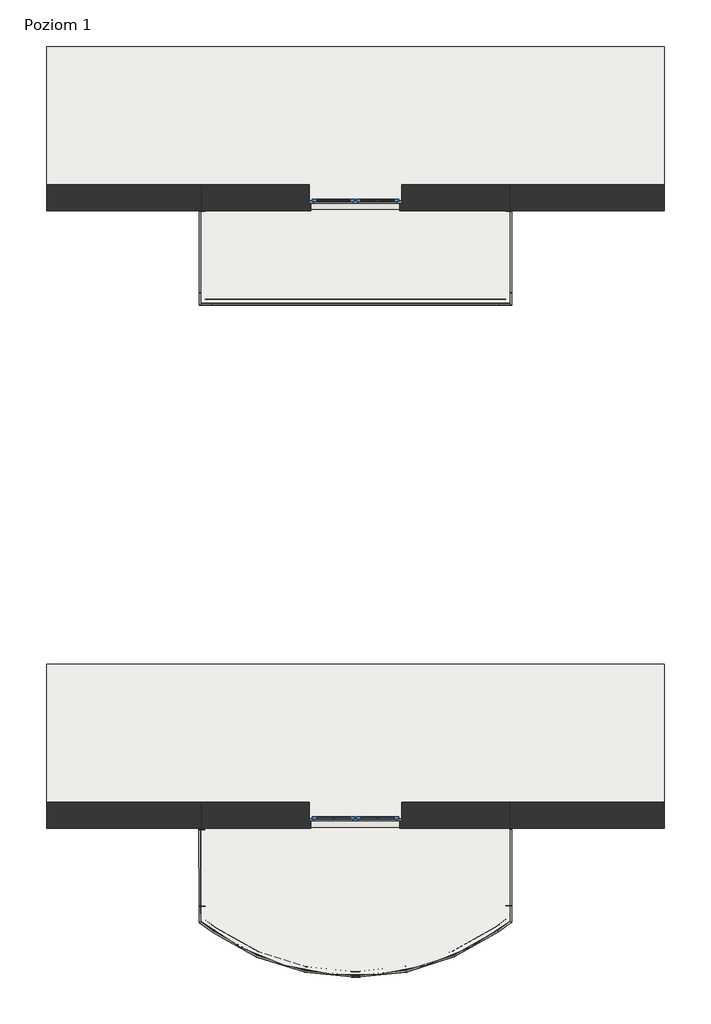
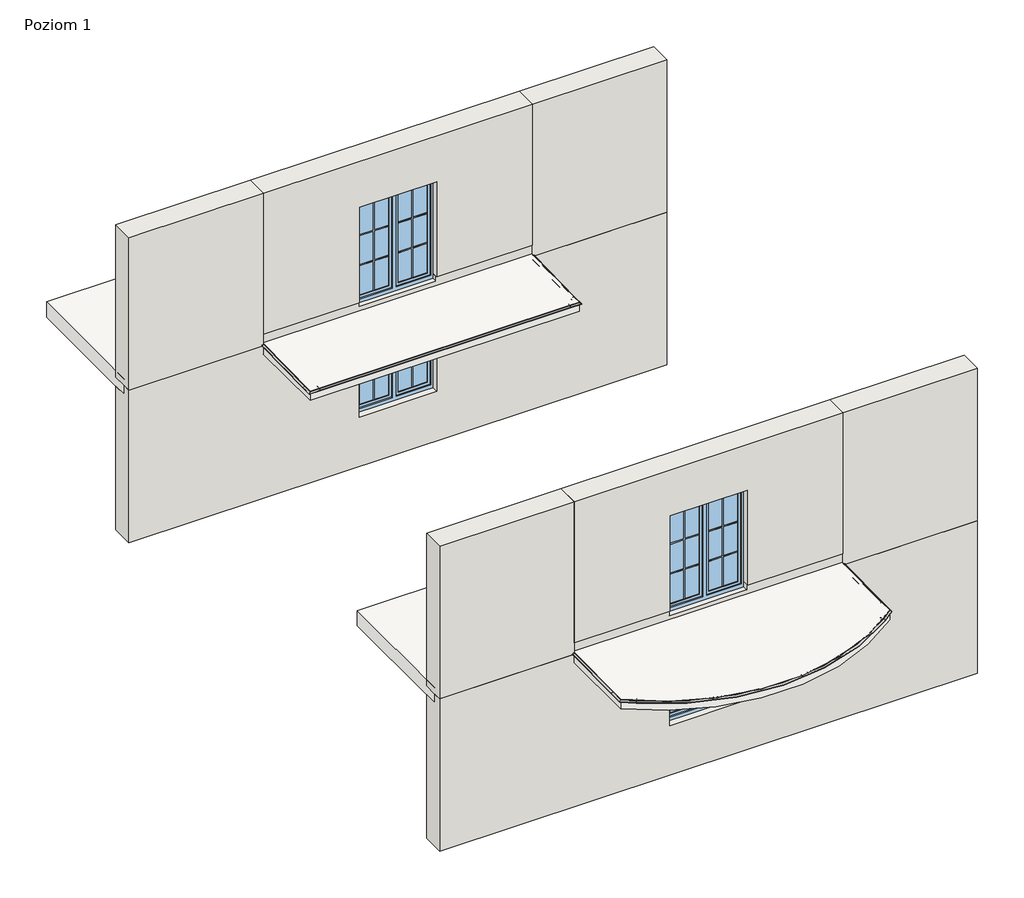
# One storey, part 1 of 4: 10 proxies, 10 walls, 4 slabs, 4 windows.
"""IFC4 building model written with IfcOpenShell, lengths in millimetres."""

from ifc_helpers import new_model, si_unit, frame, origin, place, context, project, spatial, circle_curve, ellipse_curve, faceted_brep, transform, mapped, element, save
from ifc_brep_helpers import plane_surface, cylinder_surface, advanced_brep
from components import generic_models_74c3f778, generic_models_a489ce9a, k100_529ed3ec, k100_88bf2ae9, k100_058bcfcb, k100_06891d6d, k100_37e1f177, k100_c21e507e, window_150x150_51b7f79a, window_150x200_12b14935

model = new_model("IFC4")

# Units and contexts
model_context = context("Model", 3, world=origin())
ifc_project = project(units=[si_unit("LENGTHUNIT", "METRE", prefix="MILLI")], contexts=[model_context])

# Site, building, storey
site = spatial("IfcSite", under=ifc_project)
building = spatial("IfcBuilding", under=site)
storey = spatial("IfcBuildingStorey", under=building, Name="Poziom 1", Elevation=0.0)

# Proxies
placement = place(None, origin())
generic_models_shape = generic_models_74c3f778(model_context)
element("IfcBuildingElementProxy", 1, Name="Odbojnik przyścienny K100 : Odbojnik przyścienny K100", ObjectType="Odbojnik przyścienny K100 : Odbojnik przyścienny K100", at=placement, inside=storey, context=model_context, shape_type="MappedRepresentation", body=[
    mapped(generic_models_shape, transform((-113130.3808604, 47029.7529777, -113.8887003), x_axis=(0.0, 0.9998020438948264, 0.019896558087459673), y_axis=(-1.0, 0.0, 0.0), z_axis=(0.0, -0.01989655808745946, 0.9998020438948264))),
])
element("IfcBuildingElementProxy", 2, Name="Odbojnik przyścienny K100 : Odbojnik przyścienny K100", ObjectType="Odbojnik przyścienny K100 : Odbojnik przyścienny K100", at=placement, inside=storey, context=model_context, shape_type="MappedRepresentation", body=[
    mapped(generic_models_shape, transform((-113138.3932069, 37021.6856744, -113.0843649), x_axis=(-0.005445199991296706, 0.9999099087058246, 0.012268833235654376), y_axis=(-0.9999851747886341, -0.005444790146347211, -6.680724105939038e-05), z_axis=(0.0, -0.012269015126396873, 0.9999247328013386))),
])
generic_models_2_shape = generic_models_a489ce9a(model_context)
element("IfcBuildingElementProxy", 3, Name="Odbojnik przyścienny K100 : Odbojnik przyścienny K100", ObjectType="Odbojnik przyścienny K100 : Odbojnik przyścienny K100", at=placement, inside=storey, context=model_context, shape_type="MappedRepresentation", body=[
    mapped(generic_models_2_shape, transform((-108130.8808604, 47029.7529777, -113.8887003), x_axis=(0.0, 0.9998020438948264, 0.019896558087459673), y_axis=(-1.0, 0.0, 0.0), z_axis=(0.0, -0.01989655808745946, 0.9998020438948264))),
])
element("IfcBuildingElementProxy", 4, Name="Odbojnik przyścienny K100 : Odbojnik przyścienny K100", ObjectType="Odbojnik przyścienny K100 : Odbojnik przyścienny K100", at=placement, inside=storey, context=model_context, shape_type="MappedRepresentation", body=[
    mapped(generic_models_2_shape, transform((-108130.8563877, 37031.061091, -112.9693291), x_axis=(0.0, 0.9999247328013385, 0.01226901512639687), y_axis=(-1.0000000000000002, 0.0, 0.0), z_axis=(0.0, -0.012269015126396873, 0.9999247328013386))),
])
k100_shape = k100_529ed3ec(model_context)
element("IfcBuildingElementProxy", 5, Name="K100 Profil okapowy prosty : K100", ObjectType="K100 Profil okapowy prosty : K100", at=placement, inside=storey, context=model_context, shape_type="MappedRepresentation", body=[
    mapped(k100_shape, transform((-113130.6308604, 45539.6599308, -114.0), x_axis=(1.0, 0.0, 0.0), y_axis=(0.0, 0.9998020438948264, 0.01989655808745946), z_axis=(0.0, -0.01989655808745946, 0.9998020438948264))),
])
k100_2_shape = k100_88bf2ae9(model_context)
element("IfcBuildingElementProxy", 6, Name="K100 Profil okapowy prosty : K100", ObjectType="K100 Profil okapowy prosty : K100", at=placement, inside=storey, context=model_context, shape_type="MappedRepresentation", body=[
    mapped(k100_2_shape, transform((-113130.6308604, 47029.1653041, -84.358102), x_axis=(0.0, -0.9998020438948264, -0.019896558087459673), y_axis=(1.0, 0.0, 0.0), z_axis=(0.0, -0.01989655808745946, 0.9998020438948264))),
])
k100_3_shape = k100_058bcfcb(model_context)
element("IfcBuildingElementProxy", 7, Name="K100 Profil okapowy prosty : K100", ObjectType="K100 Profil okapowy prosty : K100", at=placement, inside=storey, context=model_context, shape_type="MappedRepresentation", body=[
    mapped(k100_3_shape, transform((-108130.6308604, 47029.1653041, -84.358102), x_axis=(0.0, -0.9998020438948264, -0.019896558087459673), y_axis=(1.0, 0.0, 0.0), z_axis=(0.0, -0.01989655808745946, 0.9998020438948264))),
])
k100_4_shape = k100_06891d6d(model_context)
element("IfcBuildingElementProxy", 8, Name="K100 Profil okapowy prosty : K100", ObjectType="K100 Profil okapowy prosty : K100", at=placement, inside=storey, context=model_context, shape_type="MappedRepresentation", body=[
    mapped(k100_4_shape, transform((-108130.6063877, 37030.6987079, -83.435107), x_axis=(0.0, -0.9999247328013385, -0.01226901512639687), y_axis=(1.0000000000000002, 0.0, 0.0), z_axis=(0.0, -0.012269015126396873, 0.9999247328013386))),
])
k100_5_shape = k100_37e1f177(model_context)
element("IfcBuildingElementProxy", 9, Name="K100 Profil okapowy prosty : K100", ObjectType="K100 Profil okapowy prosty : K100", at=placement, inside=storey, context=model_context, shape_type="MappedRepresentation", body=[
    mapped(k100_5_shape, transform((-113138.6432032, 37021.3219301, -83.5501595), x_axis=(0.005445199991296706, -0.9999099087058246, -0.012268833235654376), y_axis=(0.9999851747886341, 0.005444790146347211, 6.680724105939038e-05), z_axis=(0.0, -0.012269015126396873, 0.9999247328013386))),
])
k100_6_shape = k100_c21e507e(model_context)
element("IfcBuildingElementProxy", 10, Name="K100 Profil okapowy łukowy : K100", ObjectType="K100 Profil okapowy łukowy : K100", at=placement, inside=storey, context=model_context, shape_type="MappedRepresentation", body=[
    mapped(k100_6_shape, transform((-113130.5962486, 35529.7300517, -101.8519004), x_axis=(0.9999982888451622, 0.0018498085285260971, 2.269703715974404e-05), y_axis=(-0.001849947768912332, 0.9999230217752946, 0.012268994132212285), z_axis=(0.0, -0.012269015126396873, 0.9999247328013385))),
])

# Slabs
element("IfcSlab", 11, ObjectType="Balkon - posadzka ceramiczna", at=placement, inside=storey, context=model_context, shape_type="Brep", body=[
    faceted_brep([(-113130.6308604, 45539.6599308, -290.0), (-113130.6308604, 47039.6599308, -290.0), (-113130.6308604, 47147.6599308, -290.0), (-108130.6308604, 47147.6599308, -290.0), (-108130.6308604, 47039.6599308, -290.0), (-108130.6308604, 45539.6599308, -290.0), (-113130.6308604, 45539.6599308, -114.0), (-113130.6308604, 47061.6599308, -83.7114428), (-113130.6308604, 47147.6599308, -82.0), (-113130.6308604, 47147.6599308, -125.0), (-108130.6308604, 47147.6599308, -82.0), (-108130.6308604, 47147.6599308, -125.0), (-108130.6308604, 45539.6599308, -114.0), (-108130.6308604, 47061.6599308, -83.7114428)], [[[0, 1, 2, 3, 4, 5]], [[2, 1, 0, 6, 7, 8, 9]], [[3, 2, 9, 8, 10, 11]], [[0, 5, 12, 6]], [[5, 4, 3, 11, 10, 13, 12]], [[12, 13, 10, 8, 7, 6]]]),
])
element("IfcSlab", 12, ObjectType="Balkon - posadzka ceramiczna", at=placement, inside=storey, context=model_context, shape_type="AdvancedBrep", body=[
    advanced_brep(
    [(-113130.6308604, 37147.6599308, -290.0), (-108130.6308604, 37147.6599308, -290.0), (-108130.6308604, 37039.6599308, -290.0), (-108130.6308604, 35539.0326202, -290.0), (-113130.6308604, 35539.0326202, -290.0), (-113130.6308604, 37039.6599308, -290.0), (-113130.6308604, 37147.6599308, -82.0), (-113130.6308604, 37147.6599308, -125.0), (-113130.6308604, 35539.0326202, -101.7377584), (-113130.6308604, 37061.6599308, -83.0552147), (-108130.6308604, 37147.6599308, -82.0), (-108130.6308604, 37147.6599308, -125.0), (-108130.6308604, 37061.6599308, -83.0552147), (-108130.6308604, 35539.0326202, -101.7377584)],
    [
        (0, 1),
        (1, 2),
        (2, 3),
        (3, 4, circle_curve(frame((-110630.6308604, 38661.5316194, -290.0), z_axis=(0.0, 0.0, -1.0), x_axis=(1.0, 0.0, 0.0)), 4000.0)),
        (4, 5),
        (5, 0),
        (6, 7),
        (7, 0),
        (4, 8),
        (8, 9),
        (9, 6),
        (6, 10),
        (10, 11),
        (11, 1),
        (10, 12),
        (12, 13),
        (13, 3),
        (8, 13, ellipse_curve(frame((-110630.6308604, 38661.5316194, -63.4248873), z_axis=(0.0, -0.012269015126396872, 0.9999247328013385), x_axis=(0.0, -0.9999247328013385, -0.012269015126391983)), 4000.3010915, 4000.0)),
    ],
    [
        plane_surface(frame((-113130.6308604, 37147.6599308, -290.0), z_axis=(0.0, 0.0, -1.0), x_axis=(0.0, 1.0, 0.0))),
        plane_surface(frame((-113130.6308604, 34539.6599308, -290.0), z_axis=(-1.0, 0.0, 0.0), x_axis=(0.0, 0.0, 1.0))),
        plane_surface(frame((-113130.6308604, 37147.6599308, -290.0), z_axis=(0.0, 1.0, 0.0), x_axis=(0.0, 0.0, 1.0))),
        plane_surface(frame((-108130.6308604, 37147.6599308, -290.0), z_axis=(1.0, 0.0, 0.0), x_axis=(0.0, 0.0, 1.0))),
        plane_surface(frame((-110630.6308604, 35843.6599308, -98.0), z_axis=(0.0, -0.012269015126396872, 0.9999247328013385), x_axis=(0.0, 0.9999247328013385, 0.012269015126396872))),
        cylinder_surface(frame((-110630.6308604, 38661.5316194, -594.8), z_axis=(0.0, 0.0, -1.0), x_axis=(1.0, 0.0, 0.0)), 4000.0),
    ],
    [
        (0, [[1, 2, 3, 4, 5, 6]]),
        (1, [[7, 8, -6, -5, 9, 10, 11]]),
        (2, [[-1, -8, -7, 12, 13, 14]]),
        (3, [[-14, -13, 15, 16, 17, -3, -2]]),
        (4, [[-12, -11, -10, 18, -16, -15]]),
        (5, [[-4, -17, -18, -9]]),
    ],
),
])
element("IfcSlab", 13, ObjectType="Strop", at=placement, inside=storey, context=model_context, shape_type="Brep", body=[
    faceted_brep([(-105630.6308604, 47194.6599308, -300.0), (-115630.6308604, 47194.6599308, -300.0), (-115630.6308604, 47459.6599308, -300.0), (-115630.6308604, 49694.6599308, -300.0), (-105630.6308604, 49694.6599308, -300.0), (-105630.6308604, 47459.6599308, -300.0), (-105630.6308604, 47194.6599308, 0.0), (-105630.6308604, 49694.6599308, 0.0), (-115630.6308604, 49694.6599308, 0.0), (-115630.6308604, 47194.6599308, 0.0), (-113130.6308604, 47194.6599308, 0.0), (-111380.6308604, 47194.6599308, 0.0), (-109880.6308604, 47194.6599308, 0.0), (-108130.6308604, 47194.6599308, 0.0), (-105630.6308604, 47194.6599308, -125.0), (-115630.6308604, 47194.6599308, -125.0)], [[[0, 1, 2, 3, 4, 5]], [[6, 7, 8, 9, 10, 11, 12, 13]], [[1, 0, 14, 6, 13, 12, 11, 10, 9, 15]], [[3, 2, 1, 15, 9, 8]], [[4, 3, 8, 7]], [[0, 5, 4, 7, 6, 14]]]),
])
element("IfcSlab", 14, ObjectType="Strop", at=placement, inside=storey, context=model_context, shape_type="Brep", body=[
    faceted_brep([(-105630.6308604, 37194.6599308, -300.0), (-115630.6308604, 37194.6599308, -300.0), (-115630.6308604, 37459.6599308, -300.0), (-115630.6308604, 39694.6599308, -300.0), (-105630.6308604, 39694.6599308, -300.0), (-105630.6308604, 37459.6599308, -300.0), (-105630.6308604, 37194.6599308, 0.0), (-105630.6308604, 39694.6599308, 0.0), (-115630.6308604, 39694.6599308, 0.0), (-115630.6308604, 37194.6599308, 0.0), (-113130.6308604, 37194.6599308, 0.0), (-111380.6308604, 37194.6599308, 0.0), (-109880.6308604, 37194.6599308, 0.0), (-108130.6308604, 37194.6599308, 0.0), (-105630.6308604, 37194.6599308, -125.0), (-115630.6308604, 37194.6599308, -125.0)], [[[0, 1, 2, 3, 4, 5]], [[6, 7, 8, 9, 10, 11, 12, 13]], [[1, 0, 14, 6, 13, 12, 11, 10, 9, 15]], [[3, 2, 1, 15, 9, 8]], [[4, 3, 8, 7]], [[0, 5, 4, 7, 6, 14]]]),
])

# Walls
element("IfcWall", 15, ObjectType="Porotherm P+W 25 + o15 + t", at=placement, inside=storey, context=model_context, shape_type="Brep", body=[
    faceted_brep([(-115630.6308604, 47039.6599308, -3125.0), (-105630.6308604, 47039.6599308, -3125.0), (-105630.6308604, 47039.6599308, -125.0), (-108130.6308604, 47039.6599308, -125.0), (-108130.6308604, 47039.6599308, -290.0), (-113130.6308604, 47039.6599308, -290.0), (-113130.6308604, 47039.6599308, -125.0), (-115630.6308604, 47039.6599308, -125.0), (-109910.6308604, 47039.6599308, -680.0), (-109910.6308604, 47039.6599308, -2150.0), (-111350.6308604, 47039.6599308, -2150.0), (-111350.6308604, 47039.6599308, -680.0), (-105630.6308604, 47459.6599308, -3125.0), (-115630.6308604, 47459.6599308, -3125.0), (-115630.6308604, 47459.6599308, -300.0), (-105630.6308604, 47459.6599308, -300.0), (-109880.6308604, 47459.6599308, -2150.0), (-109880.6308604, 47459.6599308, -650.0), (-111380.6308604, 47459.6599308, -650.0), (-111380.6308604, 47459.6599308, -2150.0), (-105630.6308604, 47194.6599308, -300.0), (-105630.6308604, 47194.6599308, -125.0), (-108130.6308604, 47194.6599308, -125.0), (-113130.6308604, 47194.6599308, -125.0), (-115630.6308604, 47194.6599308, -125.0), (-113130.6308604, 47147.6599308, -125.0), (-108130.6308604, 47147.6599308, -125.0), (-115630.6308604, 47194.6599308, -300.0), (-109880.6308604, 47159.6599308, -650.0), (-109880.6308604, 47159.6599308, -2150.0), (-109910.6308604, 47159.6599308, -680.0), (-109910.6308604, 47159.6599308, -2150.0), (-108130.6308604, 47147.6599308, -290.0), (-113130.6308604, 47147.6599308, -290.0), (-111380.6308604, 47159.6599308, -650.0), (-111380.6308604, 47159.6599308, -2150.0), (-111350.6308604, 47159.6599308, -2150.0), (-111350.6308604, 47159.6599308, -680.0)], [[[0, 1, 2, 3, 4, 5, 6, 7], [8, 9, 10, 11]], [[12, 13, 14, 15], [16, 17, 18, 19]], [[1, 0, 13, 12]], [[2, 1, 12, 15, 20, 21]], [[2, 21, 22, 23, 24, 7, 6, 25, 26, 3]], [[0, 7, 24, 27, 14, 13]], [[28, 17, 16, 29]], [[8, 30, 31, 9]], [[27, 20, 15, 14]], [[20, 27, 24, 23, 22, 21]], [[32, 33, 5, 4]], [[5, 33, 25, 6]], [[33, 32, 26, 25]], [[32, 4, 3, 26]], [[17, 28, 34, 18]], [[29, 16, 19, 35, 36, 10, 9, 31]], [[34, 28, 29, 31, 30, 37, 36, 35]], [[34, 35, 19, 18]], [[30, 8, 11, 37]], [[10, 36, 37, 11]]]),
])
element("IfcWall", 16, ObjectType="Porotherm P+W 25 + o15 + t", at=placement, inside=storey, context=model_context, shape_type="Brep", body=[
    faceted_brep([(-115630.6308604, 47039.6599308, -125.0), (-113130.6308604, 47039.6599308, -125.0), (-113130.6308604, 47039.6599308, 100.0), (-113130.6308604, 47039.6599308, 2875.0), (-115630.6308604, 47039.6599308, 2875.0), (-115630.6308604, 47459.6599308, -125.0), (-115630.6308604, 47459.6599308, 2875.0), (-113130.6308604, 47459.6599308, 2875.0), (-113130.6308604, 47459.6599308, 100.0), (-113130.6308604, 47459.6599308, 0.0), (-113130.6308604, 47459.6599308, -125.0), (-115630.6308604, 47194.6599308, -125.0), (-113130.6308604, 47194.6599308, -125.0), (-113130.6308604, 47147.6599308, -125.0)], [[[0, 1, 2, 3, 4]], [[5, 6, 7, 8, 9, 10]], [[1, 0, 11, 5, 10, 12, 13]], [[4, 3, 7, 6]], [[0, 4, 6, 5, 11]], [[1, 13, 12, 10, 9, 8, 7, 3, 2]]]),
])
element("IfcWall", 17, ObjectType="Porotherm P+W 25 + o15 + t", at=placement, inside=storey, context=model_context, shape_type="Brep", body=[
    faceted_brep([(-108130.6308604, 47039.6599308, 2875.0), (-108130.6308604, 47039.6599308, 100.0), (-108130.6308604, 47039.6599308, -125.0), (-105630.6308604, 47039.6599308, -125.0), (-105630.6308604, 47039.6599308, 2875.0), (-108130.6308604, 47459.6599308, -125.0), (-108130.6308604, 47459.6599308, 0.0), (-108130.6308604, 47459.6599308, 100.0), (-108130.6308604, 47459.6599308, 2875.0), (-105630.6308604, 47459.6599308, 2875.0), (-105630.6308604, 47459.6599308, -125.0), (-108130.6308604, 47147.6599308, -125.0), (-108130.6308604, 47194.6599308, -125.0), (-105630.6308604, 47194.6599308, -125.0)], [[[0, 1, 2, 3, 4]], [[5, 6, 7, 8, 9, 10]], [[3, 2, 11, 12, 5, 10, 13]], [[4, 3, 13, 10, 9]], [[0, 4, 9, 8]], [[0, 8, 7, 6, 5, 12, 11, 2, 1]]]),
])
element("IfcWall", 18, ObjectType="Porotherm P+W 25 + o12 + pł ceramiczne", at=placement, inside=storey, context=model_context, shape_type="Brep", body=[
    faceted_brep([(-108130.6308604, 47061.6599308, 100.0), (-109910.6308604, 47061.6599308, 100.0), (-109910.6308604, 47061.6599308, 0.0), (-111350.6308604, 47061.6599308, 0.0), (-111350.6308604, 47061.6599308, 100.0), (-113130.6308604, 47061.6599308, 100.0), (-113130.6308604, 47061.6599308, -83.7114428), (-108130.6308604, 47061.6599308, -83.7114428), (-113130.6308604, 47459.6599308, 0.0), (-113130.6308604, 47459.6599308, 100.0), (-111380.6308604, 47459.6599308, 100.0), (-111380.6308604, 47459.6599308, 0.0), (-108130.6308604, 47459.6599308, 100.0), (-108130.6308604, 47459.6599308, 0.0), (-109880.6308604, 47459.6599308, 0.0), (-109880.6308604, 47459.6599308, 100.0), (-113130.6308604, 47194.6599308, -125.0), (-108130.6308604, 47194.6599308, -125.0), (-108130.6308604, 47147.6599308, -125.0), (-113130.6308604, 47147.6599308, -125.0), (-108130.6308604, 47147.6599308, -82.0), (-108130.6308604, 47194.6599308, 0.0), (-109880.6308604, 47159.6599308, 100.0), (-109910.6308604, 47159.6599308, 100.0), (-111350.6308604, 47159.6599308, 100.0), (-111380.6308604, 47159.6599308, 100.0), (-113130.6308604, 47194.6599308, 0.0), (-113130.6308604, 47147.6599308, -82.0), (-111380.6308604, 47194.6599308, 0.0), (-109880.6308604, 47194.6599308, 0.0), (-111380.6308604, 47159.6599308, 0.0), (-111350.6308604, 47159.6599308, 0.0), (-109910.6308604, 47159.6599308, 0.0), (-109880.6308604, 47159.6599308, 0.0)], [[[0, 1, 2, 3, 4, 5, 6, 7]], [[8, 9, 10, 11]], [[12, 13, 14, 15]], [[16, 17, 18, 19]], [[12, 0, 7, 20, 18, 17, 21, 13]], [[0, 12, 15, 22, 23, 1]], [[9, 5, 4, 24, 25, 10]], [[5, 9, 8, 26, 16, 19, 27, 6]], [[8, 11, 28, 26]], [[13, 21, 29, 14]], [[17, 16, 26, 28, 29, 21]], [[20, 27, 19, 18]], [[27, 20, 7, 6]], [[30, 31, 3, 2, 32, 33, 29, 28]], [[31, 30, 25, 24]], [[33, 32, 23, 22]], [[33, 22, 15, 14, 29]], [[25, 30, 28, 11, 10]], [[32, 2, 1, 23]], [[3, 31, 24, 4]]]),
])
element("IfcWall", 19, ObjectType="Porotherm P+W 25 + o15 + t", at=placement, inside=storey, context=model_context, shape_type="Brep", body=[
    faceted_brep([(-108130.6308604, 47039.6599308, 100.0), (-108130.6308604, 47039.6599308, 2875.0), (-113130.6308604, 47039.6599308, 2875.0), (-113130.6308604, 47039.6599308, 100.0), (-111350.6308604, 47039.6599308, 100.0), (-111350.6308604, 47039.6599308, 1970.0), (-109910.6308604, 47039.6599308, 1970.0), (-109910.6308604, 47039.6599308, 100.0), (-108130.6308604, 47459.6599308, 2875.0), (-108130.6308604, 47459.6599308, 100.0), (-109880.6308604, 47459.6599308, 100.0), (-109880.6308604, 47459.6599308, 2000.0), (-111380.6308604, 47459.6599308, 2000.0), (-111380.6308604, 47459.6599308, 100.0), (-113130.6308604, 47459.6599308, 100.0), (-113130.6308604, 47459.6599308, 2875.0), (-113130.6308604, 47061.6599308, 100.0), (-111380.6308604, 47159.6599308, 100.0), (-111350.6308604, 47159.6599308, 100.0), (-111350.6308604, 47061.6599308, 100.0), (-108130.6308604, 47061.6599308, 100.0), (-109910.6308604, 47061.6599308, 100.0), (-109910.6308604, 47159.6599308, 100.0), (-109880.6308604, 47159.6599308, 100.0), (-109880.6308604, 47159.6599308, 2000.0), (-109910.6308604, 47159.6599308, 1970.0), (-111380.6308604, 47159.6599308, 2000.0), (-111350.6308604, 47159.6599308, 1970.0)], [[[0, 1, 2, 3, 4, 5, 6, 7]], [[8, 9, 10, 11, 12, 13, 14, 15]], [[3, 16, 14, 13, 17, 18, 19, 4]], [[9, 20, 0, 7, 21, 22, 23, 10]], [[1, 0, 20, 9, 8]], [[2, 1, 8, 15]], [[3, 2, 15, 14, 16]], [[24, 11, 10, 23]], [[6, 25, 22, 21, 7]], [[26, 12, 11, 24]], [[26, 24, 23, 22, 25, 27, 18, 17]], [[12, 26, 17, 13]], [[27, 25, 6, 5]], [[27, 5, 4, 19, 18]]]),
])
element("IfcWall", 20, ObjectType="Porotherm P+W 25 + o15 + t", at=placement, inside=storey, context=model_context, shape_type="Brep", body=[
    faceted_brep([(-115630.6308604, 37039.6599308, -3125.0), (-105630.6308604, 37039.6599308, -3125.0), (-105630.6308604, 37039.6599308, -125.0), (-108130.6308604, 37039.6599308, -125.0), (-108130.6308604, 37039.6599308, -290.0), (-113130.6308604, 37039.6599308, -290.0), (-113130.6308604, 37039.6599308, -125.0), (-115630.6308604, 37039.6599308, -125.0), (-109910.6308604, 37039.6599308, -680.0), (-109910.6308604, 37039.6599308, -2150.0), (-111350.6308604, 37039.6599308, -2150.0), (-111350.6308604, 37039.6599308, -680.0), (-105630.6308604, 37459.6599308, -3125.0), (-115630.6308604, 37459.6599308, -3125.0), (-115630.6308604, 37459.6599308, -300.0), (-105630.6308604, 37459.6599308, -300.0), (-109880.6308604, 37459.6599308, -2150.0), (-109880.6308604, 37459.6599308, -650.0), (-111380.6308604, 37459.6599308, -650.0), (-111380.6308604, 37459.6599308, -2150.0), (-105630.6308604, 37194.6599308, -300.0), (-105630.6308604, 37194.6599308, -125.0), (-108130.6308604, 37194.6599308, -125.0), (-113130.6308604, 37194.6599308, -125.0), (-115630.6308604, 37194.6599308, -125.0), (-113130.6308604, 37147.6599308, -125.0), (-108130.6308604, 37147.6599308, -125.0), (-115630.6308604, 37194.6599308, -300.0), (-109880.6308604, 37159.6599308, -650.0), (-109880.6308604, 37159.6599308, -2150.0), (-109910.6308604, 37159.6599308, -680.0), (-109910.6308604, 37159.6599308, -2150.0), (-108130.6308604, 37147.6599308, -290.0), (-113130.6308604, 37147.6599308, -290.0), (-111380.6308604, 37159.6599308, -650.0), (-111380.6308604, 37159.6599308, -2150.0), (-111350.6308604, 37159.6599308, -2150.0), (-111350.6308604, 37159.6599308, -680.0)], [[[0, 1, 2, 3, 4, 5, 6, 7], [8, 9, 10, 11]], [[12, 13, 14, 15], [16, 17, 18, 19]], [[1, 0, 13, 12]], [[2, 1, 12, 15, 20, 21]], [[2, 21, 22, 23, 24, 7, 6, 25, 26, 3]], [[0, 7, 24, 27, 14, 13]], [[28, 17, 16, 29]], [[8, 30, 31, 9]], [[27, 20, 15, 14]], [[20, 27, 24, 23, 22, 21]], [[32, 33, 5, 4]], [[5, 33, 25, 6]], [[33, 32, 26, 25]], [[32, 4, 3, 26]], [[17, 28, 34, 18]], [[29, 16, 19, 35, 36, 10, 9, 31]], [[34, 28, 29, 31, 30, 37, 36, 35]], [[34, 35, 19, 18]], [[30, 8, 11, 37]], [[10, 36, 37, 11]]]),
])
element("IfcWall", 21, ObjectType="Porotherm P+W 25 + o15 + t", at=placement, inside=storey, context=model_context, shape_type="Brep", body=[
    faceted_brep([(-115630.6308604, 37039.6599308, -125.0), (-113130.6308604, 37039.6599308, -125.0), (-113130.6308604, 37039.6599308, 100.0), (-113130.6308604, 37039.6599308, 2875.0), (-115630.6308604, 37039.6599308, 2875.0), (-115630.6308604, 37459.6599308, -125.0), (-115630.6308604, 37459.6599308, 2875.0), (-113130.6308604, 37459.6599308, 2875.0), (-113130.6308604, 37459.6599308, 100.0), (-113130.6308604, 37459.6599308, 0.0), (-113130.6308604, 37459.6599308, -125.0), (-115630.6308604, 37194.6599308, -125.0), (-113130.6308604, 37194.6599308, -125.0), (-113130.6308604, 37147.6599308, -125.0)], [[[0, 1, 2, 3, 4]], [[5, 6, 7, 8, 9, 10]], [[1, 0, 11, 5, 10, 12, 13]], [[4, 3, 7, 6]], [[0, 4, 6, 5, 11]], [[1, 13, 12, 10, 9, 8, 7, 3, 2]]]),
])
element("IfcWall", 22, ObjectType="Porotherm P+W 25 + o15 + t", at=placement, inside=storey, context=model_context, shape_type="Brep", body=[
    faceted_brep([(-108130.6308604, 37039.6599308, 2875.0), (-108130.6308604, 37039.6599308, 100.0), (-108130.6308604, 37039.6599308, -125.0), (-105630.6308604, 37039.6599308, -125.0), (-105630.6308604, 37039.6599308, 2875.0), (-108130.6308604, 37459.6599308, -125.0), (-108130.6308604, 37459.6599308, 0.0), (-108130.6308604, 37459.6599308, 100.0), (-108130.6308604, 37459.6599308, 2875.0), (-105630.6308604, 37459.6599308, 2875.0), (-105630.6308604, 37459.6599308, -125.0), (-108130.6308604, 37147.6599308, -125.0), (-108130.6308604, 37194.6599308, -125.0), (-105630.6308604, 37194.6599308, -125.0)], [[[0, 1, 2, 3, 4]], [[5, 6, 7, 8, 9, 10]], [[3, 2, 11, 12, 5, 10, 13]], [[4, 3, 13, 10, 9]], [[0, 4, 9, 8]], [[0, 8, 7, 6, 5, 12, 11, 2, 1]]]),
])
element("IfcWall", 23, ObjectType="Porotherm P+W 25 + o12 + pł ceramiczne", at=placement, inside=storey, context=model_context, shape_type="Brep", body=[
    faceted_brep([(-108130.6308604, 37061.6599308, 100.0), (-109910.6308604, 37061.6599308, 100.0), (-109910.6308604, 37061.6599308, 0.0), (-111350.6308604, 37061.6599308, 0.0), (-111350.6308604, 37061.6599308, 100.0), (-113130.6308604, 37061.6599308, 100.0), (-113130.6308604, 37061.6599308, -83.0552147), (-108130.6308604, 37061.6599308, -83.0552147), (-108130.6308604, 37459.6599308, 100.0), (-108130.6308604, 37459.6599308, 0.0), (-109880.6308604, 37459.6599308, 0.0), (-109880.6308604, 37459.6599308, 100.0), (-113130.6308604, 37459.6599308, 0.0), (-113130.6308604, 37459.6599308, 100.0), (-111380.6308604, 37459.6599308, 100.0), (-111380.6308604, 37459.6599308, 0.0), (-113130.6308604, 37194.6599308, -125.0), (-108130.6308604, 37194.6599308, -125.0), (-108130.6308604, 37147.6599308, -125.0), (-113130.6308604, 37147.6599308, -125.0), (-108130.6308604, 37147.6599308, -82.0), (-108130.6308604, 37194.6599308, 0.0), (-109880.6308604, 37159.6599308, 100.0), (-109910.6308604, 37159.6599308, 100.0), (-111350.6308604, 37159.6599308, 100.0), (-111380.6308604, 37159.6599308, 100.0), (-113130.6308604, 37194.6599308, 0.0), (-113130.6308604, 37147.6599308, -82.0), (-111380.6308604, 37194.6599308, 0.0), (-109880.6308604, 37194.6599308, 0.0), (-111380.6308604, 37159.6599308, 0.0), (-111350.6308604, 37159.6599308, 0.0), (-109910.6308604, 37159.6599308, 0.0), (-109880.6308604, 37159.6599308, 0.0)], [[[0, 1, 2, 3, 4, 5, 6, 7]], [[8, 9, 10, 11]], [[12, 13, 14, 15]], [[16, 17, 18, 19]], [[8, 0, 7, 20, 18, 17, 21, 9]], [[0, 8, 11, 22, 23, 1]], [[13, 5, 4, 24, 25, 14]], [[5, 13, 12, 26, 16, 19, 27, 6]], [[12, 15, 28, 26]], [[9, 21, 29, 10]], [[17, 16, 26, 28, 29, 21]], [[20, 27, 19, 18]], [[27, 20, 7, 6]], [[30, 31, 3, 2, 32, 33, 29, 28]], [[31, 30, 25, 24]], [[33, 32, 23, 22]], [[33, 22, 11, 10, 29]], [[25, 30, 28, 15, 14]], [[32, 2, 1, 23]], [[3, 31, 24, 4]]]),
])
element("IfcWall", 24, ObjectType="Porotherm P+W 25 + o15 + t", at=placement, inside=storey, context=model_context, shape_type="Brep", body=[
    faceted_brep([(-108130.6308604, 37039.6599308, 100.0), (-108130.6308604, 37039.6599308, 2875.0), (-113130.6308604, 37039.6599308, 2875.0), (-113130.6308604, 37039.6599308, 100.0), (-111350.6308604, 37039.6599308, 100.0), (-111350.6308604, 37039.6599308, 1970.0), (-109910.6308604, 37039.6599308, 1970.0), (-109910.6308604, 37039.6599308, 100.0), (-108130.6308604, 37459.6599308, 2875.0), (-108130.6308604, 37459.6599308, 100.0), (-109880.6308604, 37459.6599308, 100.0), (-109880.6308604, 37459.6599308, 2000.0), (-111380.6308604, 37459.6599308, 2000.0), (-111380.6308604, 37459.6599308, 100.0), (-113130.6308604, 37459.6599308, 100.0), (-113130.6308604, 37459.6599308, 2875.0), (-113130.6308604, 37061.6599308, 100.0), (-111380.6308604, 37159.6599308, 100.0), (-111350.6308604, 37159.6599308, 100.0), (-111350.6308604, 37061.6599308, 100.0), (-108130.6308604, 37061.6599308, 100.0), (-109910.6308604, 37061.6599308, 100.0), (-109910.6308604, 37159.6599308, 100.0), (-109880.6308604, 37159.6599308, 100.0), (-109880.6308604, 37159.6599308, 2000.0), (-109910.6308604, 37159.6599308, 1970.0), (-111380.6308604, 37159.6599308, 2000.0), (-111350.6308604, 37159.6599308, 1970.0)], [[[0, 1, 2, 3, 4, 5, 6, 7]], [[8, 9, 10, 11, 12, 13, 14, 15]], [[3, 16, 14, 13, 17, 18, 19, 4]], [[9, 20, 0, 7, 21, 22, 23, 10]], [[1, 0, 20, 9, 8]], [[2, 1, 8, 15]], [[3, 2, 15, 14, 16]], [[24, 11, 10, 23]], [[6, 25, 22, 21, 7]], [[26, 12, 11, 24]], [[26, 24, 23, 22, 25, 27, 18, 17]], [[12, 26, 17, 13]], [[27, 25, 6, 5]], [[27, 5, 4, 19, 18]]]),
])

# Windows
window_150x150_shape = window_150x150_51b7f79a(model_context)
element("IfcWindow", 25, ObjectType="OKNO_2X_W_SZ : 150x150", at=placement, inside=storey, context=model_context, shape_type="MappedRepresentation", body=[
    mapped(window_150x150_shape, transform((-110630.6308604, 47249.6599308, -3000.0), x_axis=(-1.0, 0.0, 0.0), y_axis=(0.0, -1.0, 0.0), z_axis=(0.0, 0.0, 1.0))),
])
element("IfcWindow", 26, ObjectType="OKNO_2X_W_SZ : 150x150", at=placement, inside=storey, context=model_context, shape_type="MappedRepresentation", body=[
    mapped(window_150x150_shape, transform((-110630.6308604, 37249.6599308, -3000.0), x_axis=(-1.0, 0.0, 0.0), y_axis=(0.0, -1.0, 0.0), z_axis=(0.0, 0.0, 1.0))),
])
window_150x200_shape = window_150x200_12b14935(model_context)
element("IfcWindow", 27, ObjectType="OKNO_2X_W_SZ : 150x200", at=placement, inside=storey, context=model_context, shape_type="MappedRepresentation", body=[
    mapped(window_150x200_shape, transform((-110630.6308604, 47249.6599308, -850.0), x_axis=(-1.0, 0.0, 0.0), y_axis=(0.0, -1.0, 0.0), z_axis=(0.0, 0.0, 1.0))),
])
element("IfcWindow", 28, ObjectType="OKNO_2X_W_SZ : 150x200", at=placement, inside=storey, context=model_context, shape_type="MappedRepresentation", body=[
    mapped(window_150x200_shape, transform((-110630.6308604, 37249.6599308, -850.0), x_axis=(-1.0, 0.0, 0.0), y_axis=(0.0, -1.0, 0.0), z_axis=(0.0, 0.0, 1.0))),
])

save(model, "model.ifc")
